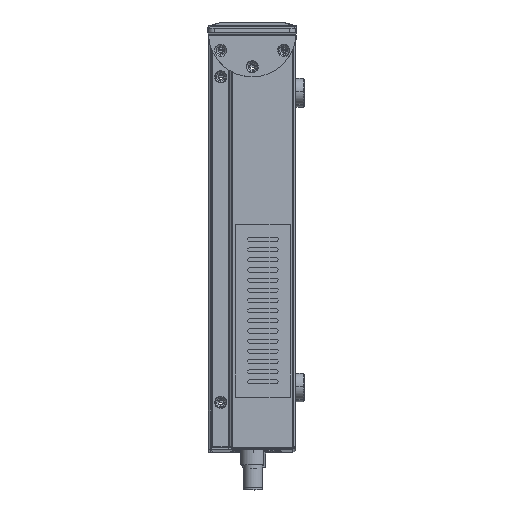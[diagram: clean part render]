
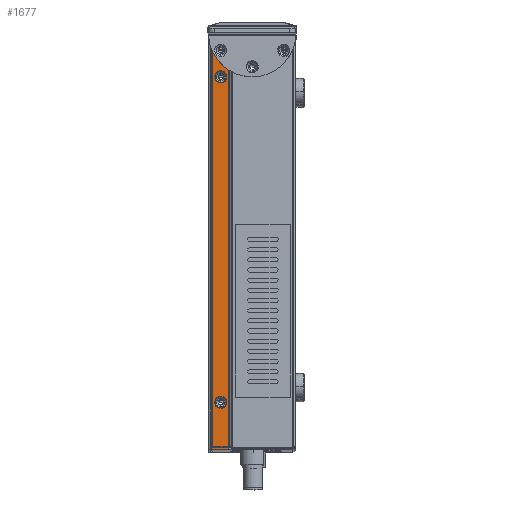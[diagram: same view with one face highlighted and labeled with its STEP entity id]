
A CAD part, left-side view. The second image highlights one B-rep face of the part: STEP entity #1677.
In plain terms, the highlighted planar face has unit normal (-1, 0, 0.007).
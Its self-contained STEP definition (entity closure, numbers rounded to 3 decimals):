
#1677=ADVANCED_FACE('',(#6946,#6210,#6211,#6212),#79606,.T.);
#6210=FACE_BOUND('',#11759,.T.);
#6211=FACE_BOUND('',#11760,.T.);
#6212=FACE_BOUND('',#11761,.T.);
#6946=FACE_OUTER_BOUND('',#11758,.T.);
#11758=EDGE_LOOP('',(#18086,#18087,#18088,#18089,#18090,#18091));
#11759=EDGE_LOOP('',(#18092,#18093));
#11760=EDGE_LOOP('',(#18094,#18095));
#11761=EDGE_LOOP('',(#18096,#18097));
#18086=ORIENTED_EDGE('',*,*,#43983,.F.);
#18087=ORIENTED_EDGE('',*,*,#43975,.F.);
#18088=ORIENTED_EDGE('',*,*,#44034,.T.);
#18089=ORIENTED_EDGE('',*,*,#44027,.T.);
#18090=ORIENTED_EDGE('',*,*,#44030,.T.);
#18091=ORIENTED_EDGE('',*,*,#43989,.T.);
#18092=ORIENTED_EDGE('',*,*,#44028,.T.);
#18093=ORIENTED_EDGE('',*,*,#44023,.T.);
#18094=ORIENTED_EDGE('',*,*,#44040,.T.);
#18095=ORIENTED_EDGE('',*,*,#44036,.T.);
#18096=ORIENTED_EDGE('',*,*,#44046,.T.);
#18097=ORIENTED_EDGE('',*,*,#44042,.T.);
#43975=EDGE_CURVE('',#70402,#70401,#58817,.T.);
#43983=EDGE_CURVE('',#70401,#70408,#58823,.T.);
#43989=EDGE_CURVE('',#70414,#70408,#58829,.T.);
#44023=EDGE_CURVE('',#70439,#70440,#56915,.T.);
#44027=EDGE_CURVE('',#70442,#70441,#58845,.T.);
#44028=EDGE_CURVE('',#70440,#70439,#56917,.T.);
#44030=EDGE_CURVE('',#70441,#70414,#56919,.T.);
#44034=EDGE_CURVE('',#70402,#70442,#56921,.T.);
#44036=EDGE_CURVE('',#70443,#70444,#56923,.T.);
#44040=EDGE_CURVE('',#70444,#70443,#56925,.T.);
#44042=EDGE_CURVE('',#70445,#70446,#56927,.T.);
#44046=EDGE_CURVE('',#70446,#70445,#56929,.T.);
#56915=(
BOUNDED_CURVE()
B_SPLINE_CURVE(2,(#95799,#95800,#95801,#95802,#95803),.UNSPECIFIED.,.F.,
 .F.)
B_SPLINE_CURVE_WITH_KNOTS((3,2,3),(0.,3.142,6.283),
 .UNSPECIFIED.)
CURVE()
GEOMETRIC_REPRESENTATION_ITEM()
RATIONAL_B_SPLINE_CURVE((1.,0.707,1.,0.707,1.))
REPRESENTATION_ITEM('')
);
#56917=(
BOUNDED_CURVE()
B_SPLINE_CURVE(2,(#95815,#95816,#95817,#95818,#95819),.UNSPECIFIED.,.F.,
 .F.)
B_SPLINE_CURVE_WITH_KNOTS((3,2,3),(0.,3.142,6.283),
 .UNSPECIFIED.)
CURVE()
GEOMETRIC_REPRESENTATION_ITEM()
RATIONAL_B_SPLINE_CURVE((1.,0.707,1.,0.707,1.))
REPRESENTATION_ITEM('')
);
#56919=(
BOUNDED_CURVE()
B_SPLINE_CURVE(2,(#95825,#95826,#95827),.UNSPECIFIED.,.F.,.F.)
B_SPLINE_CURVE_WITH_KNOTS((3,3),(0.,1.571),.UNSPECIFIED.)
CURVE()
GEOMETRIC_REPRESENTATION_ITEM()
RATIONAL_B_SPLINE_CURVE((1.,0.707,1.))
REPRESENTATION_ITEM('')
);
#56921=(
BOUNDED_CURVE()
B_SPLINE_CURVE(2,(#95835,#95836,#95837),.UNSPECIFIED.,.F.,.F.)
B_SPLINE_CURVE_WITH_KNOTS((3,3),(0.,1.571),.UNSPECIFIED.)
CURVE()
GEOMETRIC_REPRESENTATION_ITEM()
RATIONAL_B_SPLINE_CURVE((1.,0.707,1.))
REPRESENTATION_ITEM('')
);
#56923=(
BOUNDED_CURVE()
B_SPLINE_CURVE(2,(#95841,#95842,#95843,#95844,#95845),.UNSPECIFIED.,.F.,
 .F.)
B_SPLINE_CURVE_WITH_KNOTS((3,2,3),(0.,4.712,9.425),
 .UNSPECIFIED.)
CURVE()
GEOMETRIC_REPRESENTATION_ITEM()
RATIONAL_B_SPLINE_CURVE((1.,0.707,1.,0.707,1.))
REPRESENTATION_ITEM('')
);
#56925=(
BOUNDED_CURVE()
B_SPLINE_CURVE(2,(#95855,#95856,#95857,#95858,#95859),.UNSPECIFIED.,.F.,
 .F.)
B_SPLINE_CURVE_WITH_KNOTS((3,2,3),(0.,4.712,9.425),
 .UNSPECIFIED.)
CURVE()
GEOMETRIC_REPRESENTATION_ITEM()
RATIONAL_B_SPLINE_CURVE((1.,0.707,1.,0.707,1.))
REPRESENTATION_ITEM('')
);
#56927=(
BOUNDED_CURVE()
B_SPLINE_CURVE(2,(#95865,#95866,#95867,#95868,#95869),.UNSPECIFIED.,.F.,
 .F.)
B_SPLINE_CURVE_WITH_KNOTS((3,2,3),(0.,4.712,9.425),
 .UNSPECIFIED.)
CURVE()
GEOMETRIC_REPRESENTATION_ITEM()
RATIONAL_B_SPLINE_CURVE((1.,0.707,1.,0.707,1.))
REPRESENTATION_ITEM('')
);
#56929=(
BOUNDED_CURVE()
B_SPLINE_CURVE(2,(#95879,#95880,#95881,#95882,#95883),.UNSPECIFIED.,.F.,
 .F.)
B_SPLINE_CURVE_WITH_KNOTS((3,2,3),(0.,4.712,9.425),
 .UNSPECIFIED.)
CURVE()
GEOMETRIC_REPRESENTATION_ITEM()
RATIONAL_B_SPLINE_CURVE((1.,0.707,1.,0.707,1.))
REPRESENTATION_ITEM('')
);
#58817=B_SPLINE_CURVE_WITH_KNOTS('',1,(#95657,#95658),.UNSPECIFIED.,.F.,
 .F.,(2,2),(-7.5,0.),.UNSPECIFIED.);
#58823=B_SPLINE_CURVE_WITH_KNOTS('',1,(#95675,#95676),.UNSPECIFIED.,.F.,
 .F.,(2,2),(-206.,0.),.UNSPECIFIED.);
#58829=B_SPLINE_CURVE_WITH_KNOTS('',1,(#95687,#95688),.UNSPECIFIED.,.F.,
 .F.,(2,2),(0.,7.5),.UNSPECIFIED.);
#58845=B_SPLINE_CURVE_WITH_KNOTS('',1,(#95813,#95814),.UNSPECIFIED.,.F.,
 .F.,(2,2),(-204.,0.),.UNSPECIFIED.);
#70401=VERTEX_POINT('',#95515);
#70402=VERTEX_POINT('',#95516);
#70408=VERTEX_POINT('',#95522);
#70414=VERTEX_POINT('',#95528);
#70439=VERTEX_POINT('',#95553);
#70440=VERTEX_POINT('',#95554);
#70441=VERTEX_POINT('',#95555);
#70442=VERTEX_POINT('',#95556);
#70443=VERTEX_POINT('',#95557);
#70444=VERTEX_POINT('',#95558);
#70445=VERTEX_POINT('',#95559);
#70446=VERTEX_POINT('',#95560);
#79606=PLANE('',#83001);
#83001=AXIS2_PLACEMENT_3D('',#95416,#86982,$);
#86982=DIRECTION('',(-1.,0.,0.007));
#95416=CARTESIAN_POINT('',(-107.919,21.308,-235.17));
#95515=CARTESIAN_POINT('',(-107.771,20.064,-214.161));
#95516=CARTESIAN_POINT('',(-107.772,12.558,-214.161));
#95522=CARTESIAN_POINT('',(-106.317,20.064,-8.004));
#95528=CARTESIAN_POINT('',(-106.318,12.558,-8.004));
#95553=CARTESIAN_POINT('',(-106.402,15.56,-20.013));
#95554=CARTESIAN_POINT('',(-106.374,15.56,-16.01));
#95555=CARTESIAN_POINT('',(-106.325,11.557,-9.005));
#95556=CARTESIAN_POINT('',(-107.765,11.557,-213.16));
#95557=CARTESIAN_POINT('',(-107.609,12.558,-191.143));
#95558=CARTESIAN_POINT('',(-107.608,18.563,-191.143));
#95559=CARTESIAN_POINT('',(-106.48,12.558,-31.021));
#95560=CARTESIAN_POINT('',(-106.479,18.563,-31.021));
#95657=CARTESIAN_POINT('',(-107.772,12.558,-214.161));
#95658=CARTESIAN_POINT('',(-107.771,20.064,-214.161));
#95675=CARTESIAN_POINT('',(-107.771,20.064,-214.161));
#95676=CARTESIAN_POINT('',(-106.317,20.064,-8.004));
#95687=CARTESIAN_POINT('',(-106.318,12.558,-8.004));
#95688=CARTESIAN_POINT('',(-106.317,20.064,-8.004));
#95799=CARTESIAN_POINT('',(-106.402,15.56,-20.013));
#95800=CARTESIAN_POINT('',(-106.402,17.562,-20.013));
#95801=CARTESIAN_POINT('',(-106.388,17.562,-18.012));
#95802=CARTESIAN_POINT('',(-106.374,17.562,-16.01));
#95803=CARTESIAN_POINT('',(-106.374,15.56,-16.01));
#95813=CARTESIAN_POINT('',(-107.765,11.557,-213.16));
#95814=CARTESIAN_POINT('',(-106.325,11.557,-9.005));
#95815=CARTESIAN_POINT('',(-106.374,15.56,-16.01));
#95816=CARTESIAN_POINT('',(-106.374,13.559,-16.01));
#95817=CARTESIAN_POINT('',(-106.388,13.559,-18.012));
#95818=CARTESIAN_POINT('',(-106.402,13.559,-20.013));
#95819=CARTESIAN_POINT('',(-106.402,15.56,-20.013));
#95825=CARTESIAN_POINT('',(-106.325,11.557,-9.005));
#95826=CARTESIAN_POINT('',(-106.318,11.557,-8.004));
#95827=CARTESIAN_POINT('',(-106.318,12.558,-8.004));
#95835=CARTESIAN_POINT('',(-107.772,12.558,-214.161));
#95836=CARTESIAN_POINT('',(-107.772,11.557,-214.161));
#95837=CARTESIAN_POINT('',(-107.765,11.557,-213.16));
#95841=CARTESIAN_POINT('',(-107.609,12.558,-191.143));
#95842=CARTESIAN_POINT('',(-107.63,12.558,-194.146));
#95843=CARTESIAN_POINT('',(-107.63,15.56,-194.146));
#95844=CARTESIAN_POINT('',(-107.63,18.563,-194.146));
#95845=CARTESIAN_POINT('',(-107.608,18.563,-191.143));
#95855=CARTESIAN_POINT('',(-107.608,18.563,-191.143));
#95856=CARTESIAN_POINT('',(-107.587,18.563,-188.141));
#95857=CARTESIAN_POINT('',(-107.588,15.56,-188.141));
#95858=CARTESIAN_POINT('',(-107.588,12.558,-188.141));
#95859=CARTESIAN_POINT('',(-107.609,12.558,-191.143));
#95865=CARTESIAN_POINT('',(-106.48,12.558,-31.021));
#95866=CARTESIAN_POINT('',(-106.501,12.558,-34.024));
#95867=CARTESIAN_POINT('',(-106.501,15.56,-34.024));
#95868=CARTESIAN_POINT('',(-106.501,18.563,-34.024));
#95869=CARTESIAN_POINT('',(-106.479,18.563,-31.021));
#95879=CARTESIAN_POINT('',(-106.479,18.563,-31.021));
#95880=CARTESIAN_POINT('',(-106.458,18.563,-28.019));
#95881=CARTESIAN_POINT('',(-106.459,15.56,-28.019));
#95882=CARTESIAN_POINT('',(-106.459,12.558,-28.019));
#95883=CARTESIAN_POINT('',(-106.48,12.558,-31.021));
